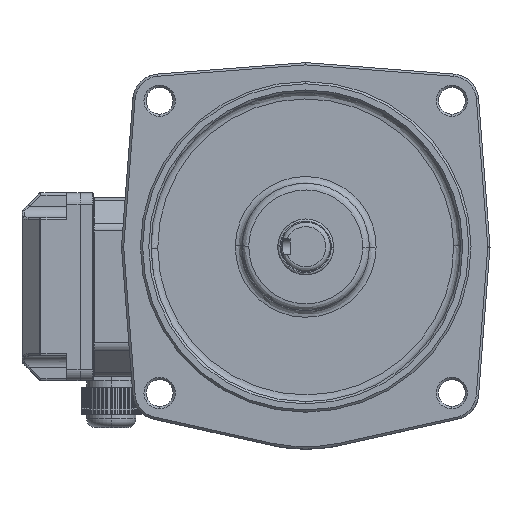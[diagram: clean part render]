
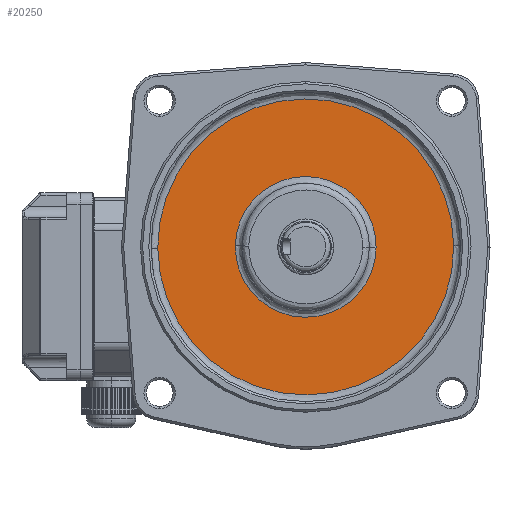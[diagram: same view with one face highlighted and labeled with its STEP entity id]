
A CAD part, top view. The second image highlights one B-rep face of the part: STEP entity #20250.
In plain terms, the highlighted planar face has unit normal (0, 0, 1).
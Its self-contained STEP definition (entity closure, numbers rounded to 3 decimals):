
#337 = DIRECTION ( 'NONE',  ( 0., 0., -1. ) ) ;
#1224 = EDGE_CURVE ( 'NONE', #60141, #31582, #95523, .T. ) ;
#3583 = DIRECTION ( 'NONE',  ( 0., 1., 0. ) ) ;
#3769 = CARTESIAN_POINT ( 'NONE',  ( 43.841, 113.798, 21.867 ) ) ;
#11134 = FACE_OUTER_BOUND ( 'NONE', #85830, .T. ) ;
#14328 = AXIS2_PLACEMENT_3D ( 'NONE', #81115, #89202, #56869 ) ;
#15264 = ORIENTED_EDGE ( 'NONE', *, *, #17070, .F. ) ;
#16900 = VERTEX_POINT ( 'NONE', #80422 ) ;
#17070 = EDGE_CURVE ( 'NONE', #31582, #60141, #71719, .T. ) ;
#18715 = FACE_BOUND ( 'NONE', #32393, .T. ) ;
#20250 = ADVANCED_FACE ( 'NONE', ( #11134, #18715 ), #45040, .T. ) ;
#20379 = DIRECTION ( 'NONE',  ( 0., 0., -1. ) ) ;
#31582 = VERTEX_POINT ( 'NONE', #104676 ) ;
#32393 = EDGE_LOOP ( 'NONE', ( #36752, #45942 ) ) ;
#32624 = CARTESIAN_POINT ( 'NONE',  ( 43.841, 113.798, 21.867 ) ) ;
#33242 = CIRCLE ( 'NONE', #14328, 31.5 ) ;
#34957 = DIRECTION ( 'NONE',  ( 1., 0., 0. ) ) ;
#36615 = DIRECTION ( 'NONE',  ( 0., 0., 1. ) ) ;
#36752 = ORIENTED_EDGE ( 'NONE', *, *, #100041, .F. ) ;
#45020 = AXIS2_PLACEMENT_3D ( 'NONE', #3769, #36615, #102391 ) ;
#45040 = PLANE ( 'NONE',  #61277 ) ;
#45942 = ORIENTED_EDGE ( 'NONE', *, *, #95075, .F. ) ;
#52082 = CARTESIAN_POINT ( 'NONE',  ( 43.841, 113.798, 21.867 ) ) ;
#56262 = AXIS2_PLACEMENT_3D ( 'NONE', #67840, #20379, #34957 ) ;
#56869 = DIRECTION ( 'NONE',  ( -1., 0., 0. ) ) ;
#60141 = VERTEX_POINT ( 'NONE', #72881 ) ;
#61277 = AXIS2_PLACEMENT_3D ( 'NONE', #52082, #93037, #3583 ) ;
#62465 = VERTEX_POINT ( 'NONE', #93655 ) ;
#64616 = AXIS2_PLACEMENT_3D ( 'NONE', #32624, #337, #65517 ) ;
#65517 = DIRECTION ( 'NONE',  ( 1., 0., 0. ) ) ;
#67840 = CARTESIAN_POINT ( 'NONE',  ( 43.841, 113.798, 21.867 ) ) ;
#70922 = ORIENTED_EDGE ( 'NONE', *, *, #1224, .F. ) ;
#71719 = CIRCLE ( 'NONE', #56262, 66.25 ) ;
#72881 = CARTESIAN_POINT ( 'NONE',  ( -22.406, 113.228, 21.867 ) ) ;
#80422 = CARTESIAN_POINT ( 'NONE',  ( 75.338, 113.335, 21.867 ) ) ;
#81115 = CARTESIAN_POINT ( 'NONE',  ( 43.841, 113.798, 21.867 ) ) ;
#85830 = EDGE_LOOP ( 'NONE', ( #70922, #15264 ) ) ;
#89202 = DIRECTION ( 'NONE',  ( 0., 0., 1. ) ) ;
#93037 = DIRECTION ( 'NONE',  ( 0., 0., 1. ) ) ;
#93655 = CARTESIAN_POINT ( 'NONE',  ( 12.345, 114.261, 21.867 ) ) ;
#95075 = EDGE_CURVE ( 'NONE', #16900, #62465, #99900, .T. ) ;
#95523 = CIRCLE ( 'NONE', #64616, 66.25 ) ;
#99900 = CIRCLE ( 'NONE', #45020, 31.5 ) ;
#100041 = EDGE_CURVE ( 'NONE', #62465, #16900, #33242, .T. ) ;
#102391 = DIRECTION ( 'NONE',  ( -1., 0., 0. ) ) ;
#104676 = CARTESIAN_POINT ( 'NONE',  ( 110.089, 114.367, 21.867 ) ) ;
